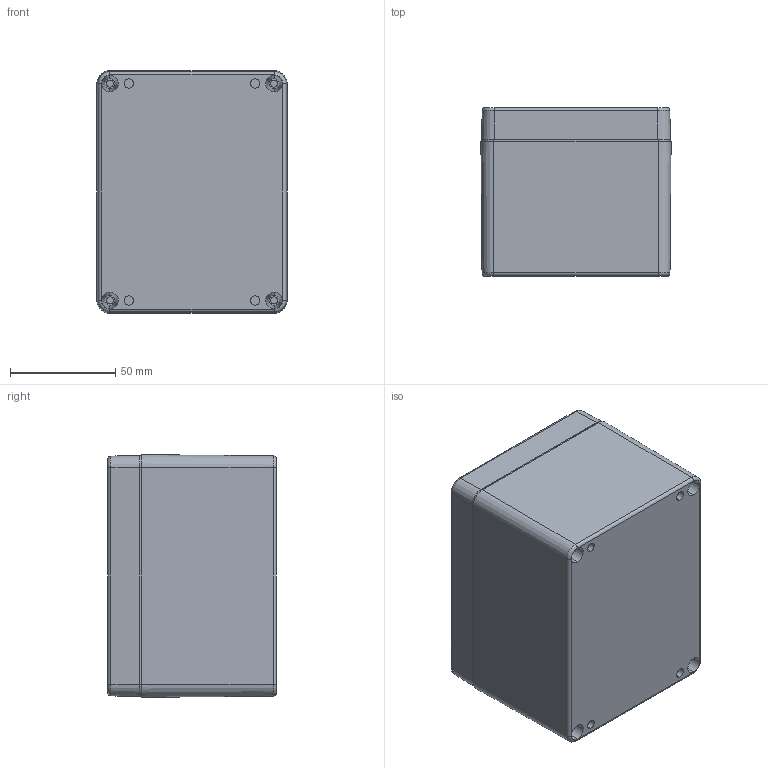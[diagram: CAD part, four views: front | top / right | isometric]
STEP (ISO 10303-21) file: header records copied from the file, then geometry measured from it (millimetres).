
FILE_DESCRIPTION (( 'STEP AP214' ), '1' );
FILE_NAME ('WA-28.STEP', '2016-05-23T19:16:13', ( '' ), ( '' ), 'SwSTEP 2.0', 'SolidWorks 2015', '' );
FILE_SCHEMA (( 'AUTOMOTIVE_DESIGN' ));
Length unit declared in the file: inch
Products named in the file (6): SCREWS-SSM4-20-4; W_-23C_WA-23C*16; W_-28B_WA-28B*16; W_-28B-PCB_WA-28B*16-PCB; SCREWS-SSM4-20_SCREWS-SSM4-20; WA-28
Assembly tree (8 placements, depth 3):
  WA-28
    W_-28B_WA-28B*16
    W_-23C_WA-23C*16
    SCREWS-SSM4-20-4
      SCREWS-SSM4-20_SCREWS-SSM4-20  x4
    W_-28B-PCB_WA-28B*16-PCB
Bounding box: 90.55 x 80.2 x 115.52 mm (x, y, z)
Volume: 189501.1 mm3; surface area: 143414.3 mm2
Topology: 16 solids, 16 shells, 907 faces, 2233 edges, 1402 vertices
Faces by surface type: plane 312, cylinder 302, cone 140, bspline 120, torus 32, sphere 1
Entity records: 22756 total; most frequent: CARTESIAN_POINT 5114, DIRECTION 3406, ORIENTED_EDGE 3244, EDGE_CURVE 1622, AXIS2_PLACEMENT_3D 1341, VERTEX_POINT 1049, EDGE_LOOP 789, CIRCLE 728
